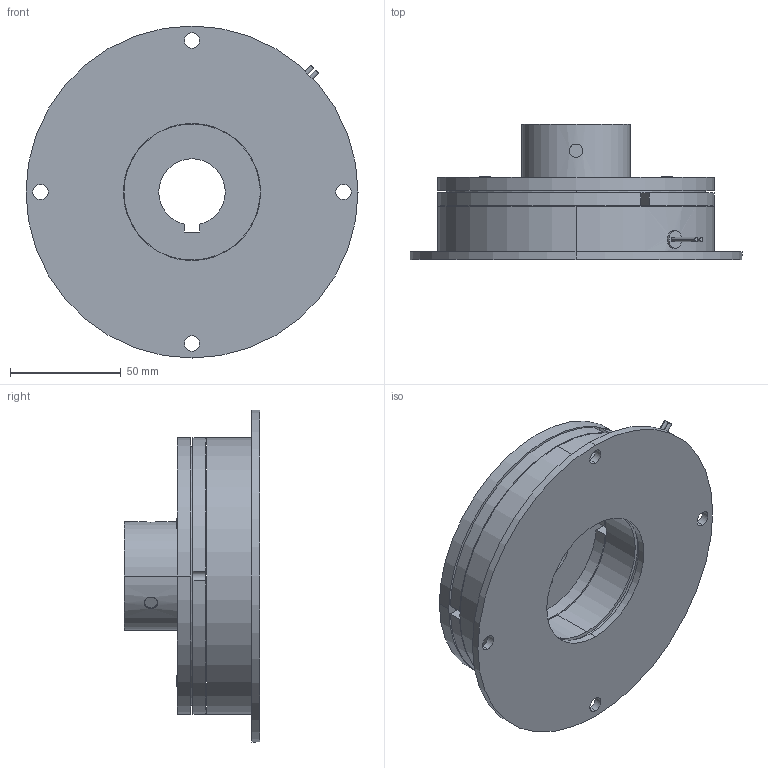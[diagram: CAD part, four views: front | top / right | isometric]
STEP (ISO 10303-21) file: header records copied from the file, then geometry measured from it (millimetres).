
FILE_DESCRIPTION (( 'STEP AP203' ), '1' );
FILE_NAME ('B-M40-F02-30.STEP', '2020-05-26T09:18:54', ( '' ), ( '' ), 'SwSTEP 2.0', 'SolidWorks 2015', '' );
FILE_SCHEMA (( 'CONFIG_CONTROL_DESIGN' ));
Length unit declared in the file: millimetre
Products named in the file (1): B-M40-F02-30
Bounding box: 150 x 61.15 x 150 mm (x, y, z)
Volume: 391664.8 mm3; surface area: 89121.9 mm2
Topology: 2 solids, 2 shells, 230 faces, 528 edges, 328 vertices
Faces by surface type: plane 99, cylinder 89, cone 36, sphere 6
Entity records: 6737 total; most frequent: CARTESIAN_POINT 1273, DIRECTION 1228, ORIENTED_EDGE 1032, EDGE_CURVE 516, AXIS2_PLACEMENT_3D 487, VERTEX_POINT 328, EDGE_LOOP 280, CIRCLE 256
